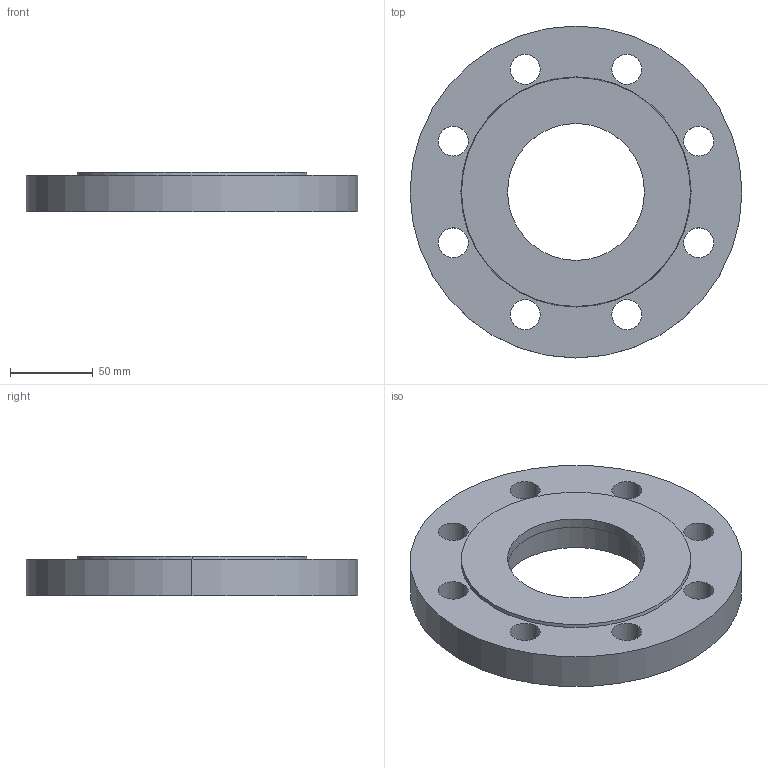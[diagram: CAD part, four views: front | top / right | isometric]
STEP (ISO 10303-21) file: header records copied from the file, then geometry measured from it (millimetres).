
FILE_DESCRIPTION (( 'STEP AP214' ), '1' );
FILE_NAME ('PN40 DN80 Type 05 - Socket (Type B) - Not in Standard.STEP', '2019-01-01T19:45:45', ( '' ), ( '' ), 'SwSTEP 2.0', 'SolidWorks 2019', '' );
FILE_SCHEMA (( 'AUTOMOTIVE_DESIGN' ));
Length unit declared in the file: millimetre
Products named in the file (1): PN40 DN80 Type 05 - Socket (Type B) - Not in Standard
Bounding box: 200 x 200 x 24 mm (x, y, z)
Volume: 528570.6 mm3; surface area: 79246.9 mm2
Topology: 1 solids, 1 shells, 28 faces, 72 edges, 48 vertices
Faces by surface type: cylinder 22, plane 4, cone 2
Entity records: 954 total; most frequent: DIRECTION 178, CARTESIAN_POINT 149, ORIENTED_EDGE 144, AXIS2_PLACEMENT_3D 77, EDGE_CURVE 72, CIRCLE 48, VERTEX_POINT 48, EDGE_LOOP 48
